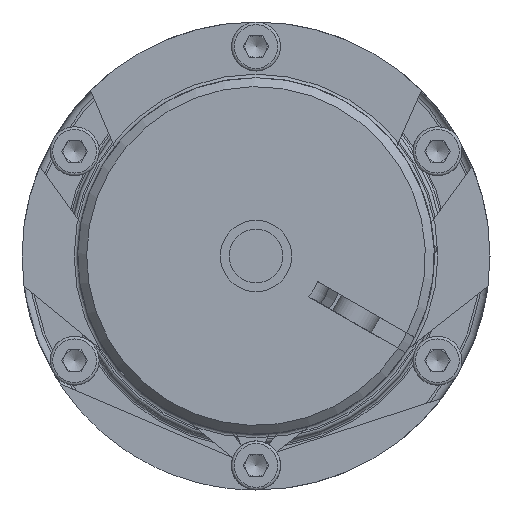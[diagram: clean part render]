
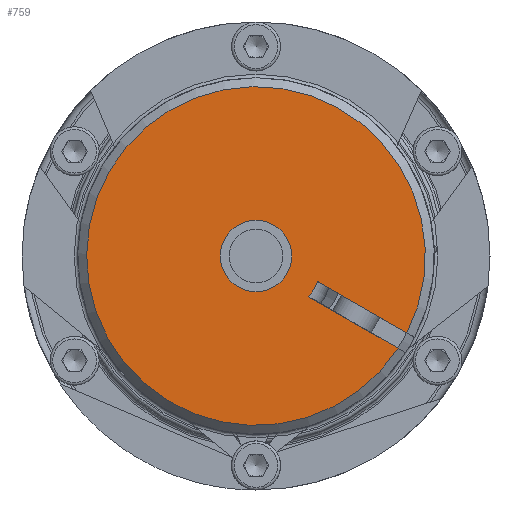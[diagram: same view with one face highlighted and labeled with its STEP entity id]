
A CAD part, left-side view. The second image highlights one B-rep face of the part: STEP entity #759.
In plain terms, the highlighted planar face has unit normal (-1, 0, 0).
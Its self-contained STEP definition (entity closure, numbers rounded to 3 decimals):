
#759 = ADVANCED_FACE( '', ( #1872, #1873 ), #1874, .T. );
#1872 = FACE_OUTER_BOUND( '', #3424, .T. );
#1873 = FACE_BOUND( '', #3425, .T. );
#1874 = PLANE( '', #3426 );
#3424 = EDGE_LOOP( '', ( #5700, #5701, #5702, #5703 ) );
#3425 = EDGE_LOOP( '', ( #5704 ) );
#3426 = AXIS2_PLACEMENT_3D( '', #5705, #5706, #5707 );
#5700 = ORIENTED_EDGE( '', *, *, #8964, .T. );
#5701 = ORIENTED_EDGE( '', *, *, #8812, .F. );
#5702 = ORIENTED_EDGE( '', *, *, #8965, .T. );
#5703 = ORIENTED_EDGE( '', *, *, #8966, .T. );
#5704 = ORIENTED_EDGE( '', *, *, #8967, .T. );
#5705 = CARTESIAN_POINT( '', ( -34.75, 2.641, 1.525 ) );
#5706 = DIRECTION( '', ( -1., 0., 0. ) );
#5707 = DIRECTION( '', ( 0., 0., 1. ) );
#8812 = EDGE_CURVE( '', #10639, #10642, #10643, .T. );
#8964 = EDGE_CURVE( '', #10872, #10642, #10873, .T. );
#8965 = EDGE_CURVE( '', #10639, #10874, #10875, .T. );
#8966 = EDGE_CURVE( '', #10874, #10872, #10876, .T. );
#8967 = EDGE_CURVE( '', #10877, #10877, #10878, .T. );
#10639 = VERTEX_POINT( '', #13658 );
#10642 = VERTEX_POINT( '', #13662 );
#10643 = CIRCLE( '', #13663, 7.5 );
#10872 = VERTEX_POINT( '', #14191 );
#10873 = LINE( '', #14192, #14193 );
#10874 = VERTEX_POINT( '', #14194 );
#10875 = LINE( '', #14195, #14196 );
#10876 = CIRCLE( '', #14197, 19. );
#10877 = VERTEX_POINT( '', #14198 );
#10878 = CIRCLE( '', #14199, 4. );
#13658 = CARTESIAN_POINT( '', ( -34.75, -6.937, -2.85 ) );
#13662 = CARTESIAN_POINT( '', ( -34.75, -5.937, -4.583 ) );
#13663 = AXIS2_PLACEMENT_3D( '', #16840, #16841, #16842 );
#14191 = CARTESIAN_POINT( '', ( -34.75, -15.932, -10.353 ) );
#14192 = CARTESIAN_POINT( '', ( -34.75, 3.141, 0.659 ) );
#14193 = VECTOR( '', #17038, 1000. );
#14194 = CARTESIAN_POINT( '', ( -34.75, -16.932, -8.621 ) );
#14195 = CARTESIAN_POINT( '', ( -34.75, 2.141, 2.391 ) );
#14196 = VECTOR( '', #17039, 1000. );
#14197 = AXIS2_PLACEMENT_3D( '', #17040, #17041, #17042 );
#14198 = CARTESIAN_POINT( '', ( -34.75, 3.464, 2. ) );
#14199 = AXIS2_PLACEMENT_3D( '', #17043, #17044, #17045 );
#16840 = CARTESIAN_POINT( '', ( -34.75, 0., 0. ) );
#16841 = DIRECTION( '', ( 1., 0., 0. ) );
#16842 = DIRECTION( '', ( 0., 0.866, 0.5 ) );
#17038 = DIRECTION( '', ( 0., 0.866, 0.5 ) );
#17039 = DIRECTION( '', ( 0., -0.866, -0.5 ) );
#17040 = CARTESIAN_POINT( '', ( -34.75, 0., 0. ) );
#17041 = DIRECTION( '', ( -1., 0., 0. ) );
#17042 = DIRECTION( '', ( 0., 0.866, 0.5 ) );
#17043 = CARTESIAN_POINT( '', ( -34.75, 0., 0. ) );
#17044 = DIRECTION( '', ( 1., 0., 0. ) );
#17045 = DIRECTION( '', ( 0., 0.866, 0.5 ) );
